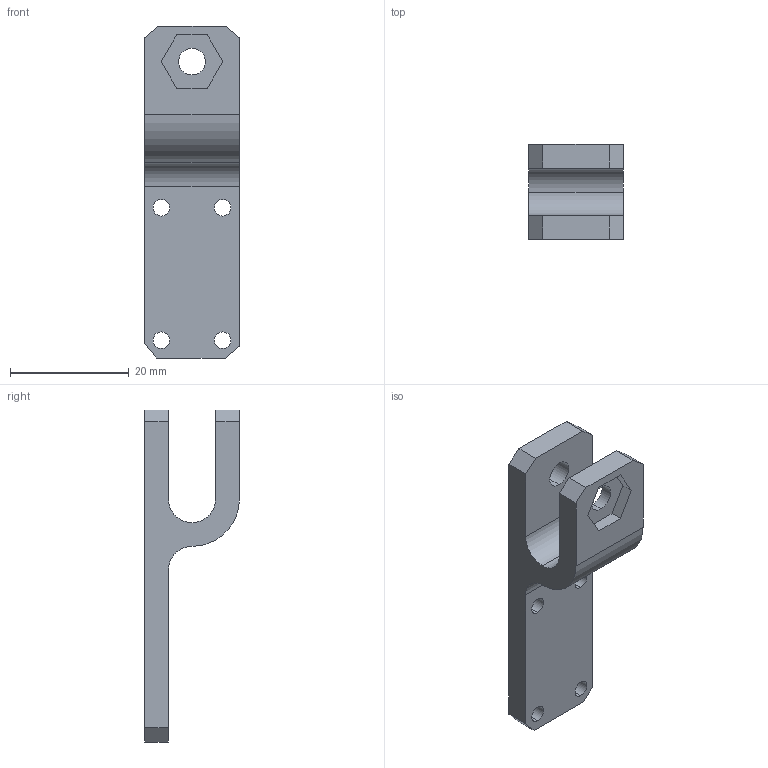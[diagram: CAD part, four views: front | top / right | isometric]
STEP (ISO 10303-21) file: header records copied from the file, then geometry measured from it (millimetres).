
FILE_DESCRIPTION (( 'STEP AP203' ), '1' );
FILE_NAME ('Y HOME SWITCH MOUNT.STEP', '2012-08-20T19:23:50', ( '' ), ( '' ), 'SwSTEP 2.0', 'SolidWorks 2012', '' );
FILE_SCHEMA (( 'CONFIG_CONTROL_DESIGN' ));
Length unit declared in the file: millimetre
Products named in the file (1): Y HOME SWITCH MOUNT
Bounding box: 16 x 16 x 56 mm (x, y, z)
Volume: 5121.6 mm3; surface area: 3579.7 mm2
Topology: 1 solids, 1 shells, 39 faces, 108 edges, 72 vertices
Faces by surface type: plane 23, cylinder 16
Entity records: 1355 total; most frequent: CARTESIAN_POINT 220, DIRECTION 220, ORIENTED_EDGE 216, EDGE_CURVE 108, LINE 76, VECTOR 76, AXIS2_PLACEMENT_3D 72, VERTEX_POINT 72
